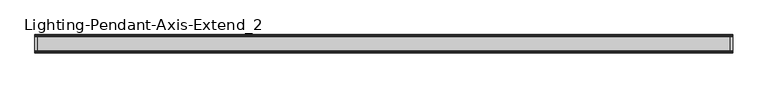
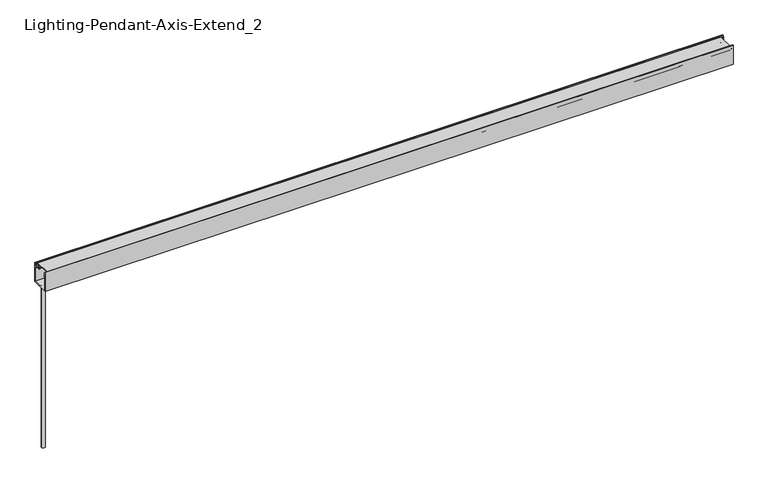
"""IFC4 building model written with IfcOpenShell, lengths in millimetres: light fixture geometry, Lighting-Pendant-Axis-Extend_2 : EX2PD-900-80-35-SO-4."""

from ifc_helpers import new_model, si_unit, point, frame, frame_2d, origin, place, context, project, spatial, polyline, circle_curve, trimmed, segment, composite_curve, outline, extrude, source, transform, mapped, element, save
from ifc_brep_helpers import plane_surface, cylinder_surface, advanced_brep


def lighting_pendant_axis_extend_2_e98adb01(model_context):
    return source(origin(), model_context, "Body", "SolidModel", [
        advanced_brep(
        [(-1211.072, 0.0, 609.6), (-1223.772, 0.0, 609.6), (-1217.422, 0.0, 609.6), (-1211.072, 0.0, 0.0), (-1223.772, 0.0, 0.0), (-1217.422, 0.0, 0.0)],
        [
            (0, 1, circle_curve(frame((-1217.422, 0.0, 609.6), z_axis=(0.0, 0.0, 1.0), x_axis=(-1.0, 0.0, 0.0)), 6.35)),
            (1, 2),
            (2, 0),
            (1, 0, circle_curve(frame((-1217.422, 0.0, 609.6), z_axis=(0.0, 0.0, 1.0), x_axis=(-1.0, 0.0, 0.0)), 6.35)),
            (3, 4, circle_curve(frame((-1217.422, 0.0, 0.0), z_axis=(0.0, 0.0, 1.0), x_axis=(-1.0, 0.0, 0.0)), 6.35)),
            (4, 1),
            (0, 3),
            (4, 3, circle_curve(frame((-1217.422, 0.0, 0.0), z_axis=(0.0, 0.0, 1.0), x_axis=(-1.0, 0.0, 0.0)), 6.35)),
            (5, 4),
            (3, 5),
        ],
        [
            plane_surface(frame((-1217.422, 0.0, 609.6), z_axis=(0.0, 0.0, 1.0), x_axis=(-1.0, 0.0, 0.0))),
            cylinder_surface(frame((-1217.422, 0.0, 2913.8581012), z_axis=(0.0, 0.0, -1.0), x_axis=(-1.0, 0.0, 0.0)), 6.35),
            plane_surface(frame((-1217.422, 0.0, 0.0), z_axis=(0.0, 0.0, -1.0), x_axis=(-1.0, 0.0, 0.0))),
        ],
        [
            (0, [[1, 2, 3]]),
            (0, [[4, -3, -2]]),
            (1, [[5, 6, -1, 7]]),
            (1, [[8, -7, -4, -6]]),
            (2, [[9, -5, 10]]),
            (2, [[-10, -8, -9]]),
        ],
    ),
        extrude(outline(composite_curve([segment(polyline([(-24.1727262, 676.1479991), (-24.5114181, 669.6853737)]), True, "CONTINUOUS"), segment(trimmed(circle_curve(frame_2d((-27.2542, 666.6865)), 4.064), [point((-24.5114181, 669.6853737))], [point((-25.3818814, 663.0794903))], False, "CARTESIAN"), True, "CONTINUOUS"), segment(trimmed(circle_curve(frame_2d((-22.149344, 663.8683457)), 3.3274001), [point((-25.3818814, 663.0794903))], [point((-24.5665956, 661.5817575))], True, "CARTESIAN"), True, "CONTINUOUS"), segment(trimmed(circle_curve(frame_2d((-17.1303177, 668.6160708)), 10.2362001), [point((-24.5665956, 661.5817575))], [point((-23.2119066, 660.3823555))], True, "CARTESIAN"), True, "CONTINUOUS"), segment(trimmed(circle_curve(frame_2d((-23.7023573, 659.7183462)), 0.8255), [point((-23.2119066, 660.3823555))], [point((-24.192808, 659.0543369))], False, "CARTESIAN"), True, "CONTINUOUS"), segment(trimmed(circle_curve(frame_2d((-17.1303169, 668.6160717)), 11.8872013), [point((-24.192808, 659.0543369))], [point((-25.7659952, 660.4471908))], False, "CARTESIAN"), True, "CONTINUOUS"), segment(trimmed(circle_curve(frame_2d((-22.149344, 663.8683457)), 4.9784001), [point((-25.7659952, 660.4471908))], [point((-27.1108807, 664.27776))], False, "CARTESIAN"), True, "CONTINUOUS"), segment(trimmed(circle_curve(frame_2d((-27.2542, 666.6865)), 2.413), [point((-27.1108807, 664.27776))], [point((-25.4753941, 668.3169658))], True, "CARTESIAN"), True, "CONTINUOUS"), segment(trimmed(circle_curve(frame_2d((-23.6029669, 670.0332456)), 2.54), [point((-25.4753941, 668.3169658))], [point((-26.1394859, 670.1661789))], False, "CARTESIAN"), True, "CONTINUOUS"), segment(polyline([(-26.1394859, 670.1661789), (-25.825992, 676.1479991), (-28.829, 676.1479991), (-28.829, 678.053), (28.829, 678.053), (28.829, 676.1479991), (25.825992, 676.1479991), (26.1394859, 670.1661789)]), True, "CONTINUOUS"), segment(trimmed(circle_curve(frame_2d((23.6029669, 670.0332456)), 2.54), [point((26.1394859, 670.1661789))], [point((25.4753941, 668.3169658))], False, "CARTESIAN"), True, "CONTINUOUS"), segment(trimmed(circle_curve(frame_2d((27.2542, 666.6865)), 2.413), [point((25.4753941, 668.3169658))], [point((27.1108807, 664.27776))], True, "CARTESIAN"), True, "CONTINUOUS"), segment(trimmed(circle_curve(frame_2d((22.149344, 663.8683457)), 4.9784001), [point((27.1108807, 664.27776))], [point((25.7659952, 660.4471908))], False, "CARTESIAN"), True, "CONTINUOUS"), segment(trimmed(circle_curve(frame_2d((17.1303169, 668.6160717)), 11.8872013), [point((25.7659952, 660.4471908))], [point((24.192808, 659.0543369))], False, "CARTESIAN"), True, "CONTINUOUS"), segment(trimmed(circle_curve(frame_2d((23.7023573, 659.7183462)), 0.8255), [point((24.192808, 659.0543369))], [point((23.2119066, 660.3823555))], False, "CARTESIAN"), True, "CONTINUOUS"), segment(trimmed(circle_curve(frame_2d((17.1303177, 668.6160708)), 10.2362001), [point((23.2119066, 660.3823555))], [point((24.5665956, 661.5817575))], True, "CARTESIAN"), True, "CONTINUOUS"), segment(trimmed(circle_curve(frame_2d((22.149344, 663.8683457)), 3.3274001), [point((24.5665956, 661.5817575))], [point((25.3818814, 663.0794903))], True, "CARTESIAN"), True, "CONTINUOUS"), segment(trimmed(circle_curve(frame_2d((27.2542, 666.6865)), 4.064), [point((25.3818814, 663.0794903))], [point((24.5114181, 669.6853737))], False, "CARTESIAN"), True, "CONTINUOUS"), segment(polyline([(24.5114181, 669.6853737), (24.1727262, 676.1479991), (-24.1727262, 676.1479991)]), True, "CONTINUOUS")], self_intersect=False)), frame((-1219.2, 0.0, 0.0), z_axis=(1.0, 0.0, 0.0), x_axis=(0.0, 1.0, 0.0)), (0.0, 0.0, 1.0), 2438.4),
        extrude(outline(composite_curve([segment(polyline([(-29.972, 666.1277), (-29.972, 611.632), (29.972, 611.632), (29.972, 666.1277), (28.1325797, 666.1277)]), True, "CONTINUOUS"), segment(trimmed(circle_curve(frame_2d((26.6262297, 666.1277)), 1.5063501), [point((28.1325797, 666.1277))], [point((25.8730546, 664.8231626))], False, "CARTESIAN"), True, "CONTINUOUS"), segment(trimmed(circle_curve(frame_2d((27.0642121, 666.8863079)), 2.382315), [point((25.8730546, 664.8231626))], [point((24.6896516, 667.0783682))], False, "CARTESIAN"), True, "CONTINUOUS"), segment(polyline([(24.6896516, 667.0783682), (28.067, 669.9123), (28.067, 668.1597), (29.972, 668.1597), (29.972, 674.6875), (28.067, 674.6875), (28.067, 673.1635), (26.416, 673.2500252), (26.416, 675.9575), (29.972, 675.9575), (29.972, 681.0375), (32.004, 681.0375), (32.004, 609.6), (-32.004, 609.6), (-32.004, 681.0375), (-29.972, 681.0375), (-29.972, 675.9575), (-26.416, 675.9575), (-26.416, 673.2500252), (-28.067, 673.1635), (-28.067, 674.6875), (-29.972, 674.6875), (-29.972, 668.1597), (-28.067, 668.1597), (-28.067, 669.9123), (-24.6896516, 667.0783682)]), True, "CONTINUOUS"), segment(trimmed(circle_curve(frame_2d((-27.0642121, 666.8863079)), 2.382315), [point((-24.6896516, 667.0783682))], [point((-25.8730546, 664.8231626))], False, "CARTESIAN"), True, "CONTINUOUS"), segment(trimmed(circle_curve(frame_2d((-26.6262297, 666.1277)), 1.5063501), [point((-25.8730546, 664.8231626))], [point((-28.1325797, 666.1277))], False, "CARTESIAN"), True, "CONTINUOUS"), segment(polyline([(-28.1325797, 666.1277), (-29.972, 666.1277)]), True, "CONTINUOUS")], self_intersect=False)), frame((-1228.3567, 0.0, 0.0), z_axis=(1.0, 0.0, 0.0), x_axis=(0.0, 1.0, 0.0)), (0.0, 0.0, 1.0), 2456.7134),
    ])


if __name__ == "__main__":
    model = new_model("IFC4")
    model_context = context("Model", 3, world=origin())
    ifc_project = project(units=[si_unit("LENGTHUNIT", "METRE", prefix="MILLI")], contexts=[model_context])
    site = spatial("IfcSite", under=ifc_project)
    building = spatial("IfcBuilding", under=site)
    placement = place(None, origin())
    lighting_pendant_axis_extend_2_shape = lighting_pendant_axis_extend_2_e98adb01(model_context)
    element("IfcLightFixture", 1, ObjectType="Lighting-Pendant-Axis-Extend_2 : EX2PD-900-80-35-SO-4", at=placement, inside=building, context=model_context, shape_type="MappedRepresentation", body=[
        mapped(lighting_pendant_axis_extend_2_shape, transform((0.0, 0.0, 0.0), x_axis=(1.0, 0.0, 0.0), y_axis=(0.0, 1.0, 0.0), z_axis=(0.0, 0.0, 1.0))),
    ])
    save(model, "model.ifc")
